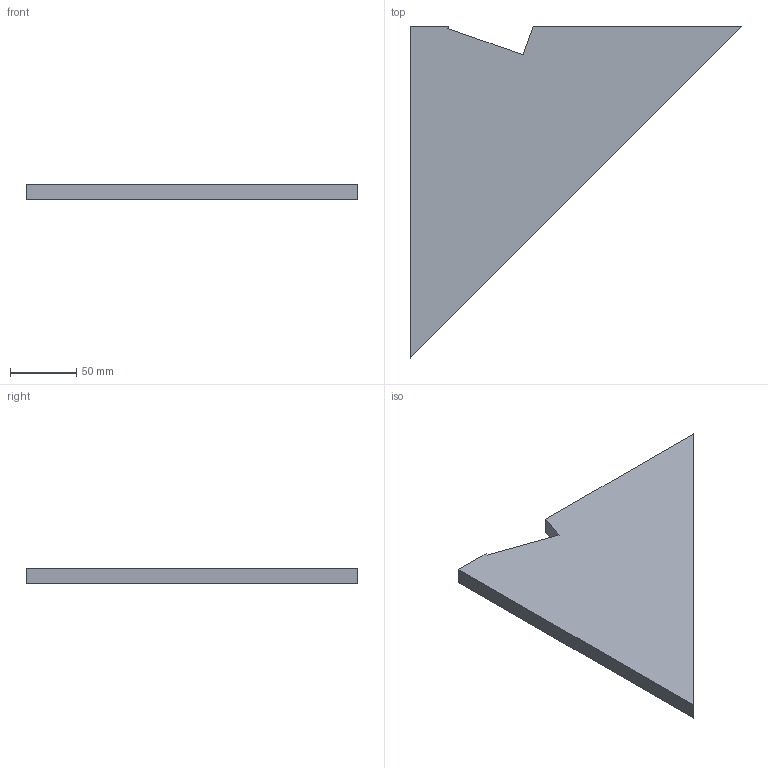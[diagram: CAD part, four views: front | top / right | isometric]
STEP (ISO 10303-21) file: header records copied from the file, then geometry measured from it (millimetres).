
FILE_DESCRIPTION(('Open CASCADE Model'),'2;1');
FILE_NAME('Open CASCADE Shape Model','2026-10-15T15:10:05',('Author'),( 'Open CASCADE'),'Open CASCADE STEP processor 8.0','Open CASCADE 8.0' ,'Unknown');
FILE_SCHEMA(('AUTOMOTIVE_DESIGN { 1 0 10303 214 1 1 1 1 }'));
Length unit declared in the file: millimetre
Products named in the file (1): BRT_LENGUETA_BRT-A_1_250x250x12_P05 162
Bounding box: 250 x 250 x 12 mm (x, y, z)
Volume: 365987.8 mm3; surface area: 71497.7 mm2
Topology: 1 solids, 1 shells, 9 faces, 21 edges, 14 vertices
Faces by surface type: plane 9
Entity records: 522 total; most frequent: CARTESIAN_POINT 103, DIRECTION 67, LINE 47, VECTOR 47, ORIENTED_EDGE 42, PCURVE 42, DEFINITIONAL_REPRESENTATION 42, EDGE_CURVE 21
